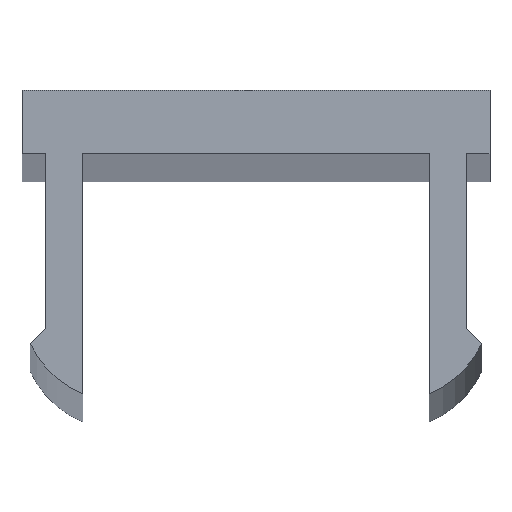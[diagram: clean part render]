
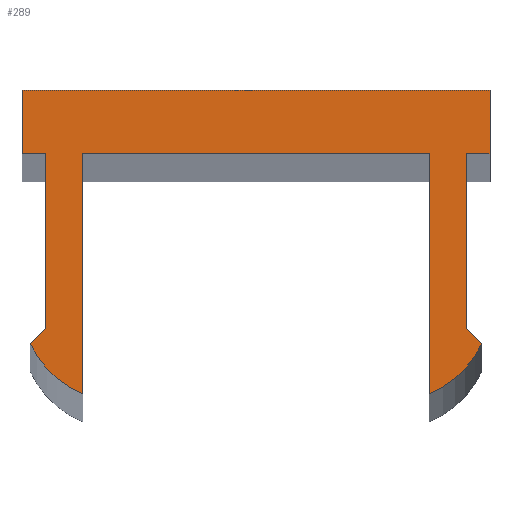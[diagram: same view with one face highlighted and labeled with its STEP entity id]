
A CAD part, top view. The second image highlights one B-rep face of the part: STEP entity #289.
In plain terms, the highlighted planar face has unit normal (0, 0, 1).
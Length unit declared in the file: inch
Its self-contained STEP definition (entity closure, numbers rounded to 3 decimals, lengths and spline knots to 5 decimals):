
#3 = VERTEX_POINT ( 'NONE', #374 ) ;
#8 = CARTESIAN_POINT ( 'NONE',  ( -0.65589, -0.71796, 39.372 ) ) ;
#9 = VERTEX_POINT ( 'NONE', #157 ) ;
#16 = DIRECTION ( 'NONE',  ( 0., 0., -1. ) ) ;
#22 = ORIENTED_EDGE ( 'NONE', *, *, #493, .T. ) ;
#25 = LINE ( 'NONE', #306, #447 ) ;
#26 = DIRECTION ( 'NONE',  ( 0., 1., 0. ) ) ;
#29 = CARTESIAN_POINT ( 'NONE',  ( -1.025, -0.85, 39.372 ) ) ;
#35 = VECTOR ( 'NONE', #424, 39.37008 ) ;
#37 = AXIS2_PLACEMENT_3D ( 'NONE', #8, #539, #259 ) ;
#43 = FACE_OUTER_BOUND ( 'NONE', #205, .T. ) ;
#50 = DIRECTION ( 'NONE',  ( 0., -1., 0. ) ) ;
#62 = CARTESIAN_POINT ( 'NONE',  ( 1.025, 0., 39.372 ) ) ;
#67 = DIRECTION ( 'NONE',  ( -1., 0., 0. ) ) ;
#74 = CARTESIAN_POINT ( 'NONE',  ( 1.14, 0.31, 39.372 ) ) ;
#78 = VERTEX_POINT ( 'NONE', #333 ) ;
#79 = VECTOR ( 'NONE', #179, 39.37008 ) ;
#82 = VECTOR ( 'NONE', #521, 39.37008 ) ;
#84 = EDGE_CURVE ( 'NONE', #247, #3, #341, .T. ) ;
#89 = VERTEX_POINT ( 'NONE', #74 ) ;
#90 = LINE ( 'NONE', #496, #79 ) ;
#91 = ORIENTED_EDGE ( 'NONE', *, *, #93, .T. ) ;
#93 = EDGE_CURVE ( 'NONE', #568, #432, #271, .T. ) ;
#95 = ORIENTED_EDGE ( 'NONE', *, *, #403, .T. ) ;
#101 = VECTOR ( 'NONE', #107, 39.37008 ) ;
#104 = CARTESIAN_POINT ( 'NONE',  ( 0.65589, -0.71796, 39.372 ) ) ;
#107 = DIRECTION ( 'NONE',  ( -0.707, -0.707, 0. ) ) ;
#113 = CARTESIAN_POINT ( 'NONE',  ( 0.65589, -0.71796, 39.372 ) ) ;
#120 = VECTOR ( 'NONE', #191, 39.37008 ) ;
#123 = ORIENTED_EDGE ( 'NONE', *, *, #422, .T. ) ;
#125 = EDGE_CURVE ( 'NONE', #78, #89, #406, .T. ) ;
#127 = ORIENTED_EDGE ( 'NONE', *, *, #449, .T. ) ;
#131 = VERTEX_POINT ( 'NONE', #423 ) ;
#133 = LINE ( 'NONE', #525, #368 ) ;
#134 = CARTESIAN_POINT ( 'NONE',  ( 0.845, 0., 39.372 ) ) ;
#137 = VERTEX_POINT ( 'NONE', #159 ) ;
#141 = EDGE_CURVE ( 'NONE', #9, #78, #519, .T. ) ;
#145 = ORIENTED_EDGE ( 'NONE', *, *, #252, .T. ) ;
#148 = ORIENTED_EDGE ( 'NONE', *, *, #235, .T. ) ;
#152 = DIRECTION ( 'NONE',  ( -1., 0., 0. ) ) ;
#157 = CARTESIAN_POINT ( 'NONE',  ( 1.025, 0., 39.372 ) ) ;
#159 = CARTESIAN_POINT ( 'NONE',  ( -1.025, 0., 39.372 ) ) ;
#165 = VERTEX_POINT ( 'NONE', #29 ) ;
#166 = VECTOR ( 'NONE', #26, 39.37008 ) ;
#173 = VECTOR ( 'NONE', #239, 39.37008 ) ;
#176 = AXIS2_PLACEMENT_3D ( 'NONE', #113, #371, #67 ) ;
#179 = DIRECTION ( 'NONE',  ( 0., -1., 0. ) ) ;
#183 = ORIENTED_EDGE ( 'NONE', *, *, #141, .T. ) ;
#188 = PLANE ( 'NONE',  #488 ) ;
#191 = DIRECTION ( 'NONE',  ( 0., 1., 0. ) ) ;
#192 = CARTESIAN_POINT ( 'NONE',  ( 1.1, -0.925, 39.372 ) ) ;
#200 = CARTESIAN_POINT ( 'NONE',  ( 0.845, 0., 39.372 ) ) ;
#205 = EDGE_LOOP ( 'NONE', ( #183, #314, #148, #123, #127, #535, #206, #95, #22, #91, #522, #537, #273, #145 ) ) ;
#206 = ORIENTED_EDGE ( 'NONE', *, *, #529, .T. ) ;
#209 = VERTEX_POINT ( 'NONE', #324 ) ;
#214 = VERTEX_POINT ( 'NONE', #233 ) ;
#215 = CIRCLE ( 'NONE', #37, 0.49 ) ;
#219 = VERTEX_POINT ( 'NONE', #555 ) ;
#233 = CARTESIAN_POINT ( 'NONE',  ( -1.14, 0., 39.372 ) ) ;
#235 = EDGE_CURVE ( 'NONE', #89, #209, #367, .T. ) ;
#239 = DIRECTION ( 'NONE',  ( -0.707, 0.707, 0. ) ) ;
#246 = DIRECTION ( 'NONE',  ( 1., 0., 0. ) ) ;
#247 = VERTEX_POINT ( 'NONE', #192 ) ;
#252 = EDGE_CURVE ( 'NONE', #3, #9, #566, .T. ) ;
#254 = VECTOR ( 'NONE', #152, 39.37008 ) ;
#258 = EDGE_CURVE ( 'NONE', #432, #219, #291, .T. ) ;
#259 = DIRECTION ( 'NONE',  ( 1., 0., 0. ) ) ;
#267 = DIRECTION ( 'NONE',  ( -1., 0., 0. ) ) ;
#271 = LINE ( 'NONE', #200, #35 ) ;
#272 = LINE ( 'NONE', #418, #166 ) ;
#273 = ORIENTED_EDGE ( 'NONE', *, *, #84, .T. ) ;
#289 = ADVANCED_FACE ( 'NONE', ( #43 ), #188, .F. ) ;
#291 = LINE ( 'NONE', #511, #446 ) ;
#301 = VECTOR ( 'NONE', #475, 39.37008 ) ;
#306 = CARTESIAN_POINT ( 'NONE',  ( -1.14, 0.31, 39.372 ) ) ;
#314 = ORIENTED_EDGE ( 'NONE', *, *, #125, .T. ) ;
#315 = LINE ( 'NONE', #554, #101 ) ;
#323 = CARTESIAN_POINT ( 'NONE',  ( -1.1, -0.925, 39.372 ) ) ;
#324 = CARTESIAN_POINT ( 'NONE',  ( -1.14, 0.31, 39.372 ) ) ;
#333 = CARTESIAN_POINT ( 'NONE',  ( 1.14, 0., 39.372 ) ) ;
#341 = LINE ( 'NONE', #382, #173 ) ;
#367 = LINE ( 'NONE', #515, #254 ) ;
#368 = VECTOR ( 'NONE', #246, 39.37008 ) ;
#371 = DIRECTION ( 'NONE',  ( 0., 0., 1. ) ) ;
#374 = CARTESIAN_POINT ( 'NONE',  ( 1.025, -0.85, 39.372 ) ) ;
#381 = EDGE_CURVE ( 'NONE', #137, #165, #90, .T. ) ;
#382 = CARTESIAN_POINT ( 'NONE',  ( 1.025, -0.85, 39.372 ) ) ;
#403 = EDGE_CURVE ( 'NONE', #528, #131, #215, .T. ) ;
#406 = LINE ( 'NONE', #561, #301 ) ;
#418 = CARTESIAN_POINT ( 'NONE',  ( -0.845, 0., 39.372 ) ) ;
#422 = EDGE_CURVE ( 'NONE', #209, #214, #25, .T. ) ;
#423 = CARTESIAN_POINT ( 'NONE',  ( -0.845, -1.17, 39.372 ) ) ;
#424 = DIRECTION ( 'NONE',  ( 1., 0., 0. ) ) ;
#432 = VERTEX_POINT ( 'NONE', #134 ) ;
#446 = VECTOR ( 'NONE', #552, 39.37008 ) ;
#447 = VECTOR ( 'NONE', #50, 39.37008 ) ;
#449 = EDGE_CURVE ( 'NONE', #214, #137, #133, .T. ) ;
#457 = CARTESIAN_POINT ( 'NONE',  ( -0.845, 0., 39.372 ) ) ;
#470 = CARTESIAN_POINT ( 'NONE',  ( 1.14, 0., 39.372 ) ) ;
#475 = DIRECTION ( 'NONE',  ( 0., 1., 0. ) ) ;
#483 = EDGE_CURVE ( 'NONE', #219, #247, #490, .T. ) ;
#488 = AXIS2_PLACEMENT_3D ( 'NONE', #104, #16, #267 ) ;
#490 = CIRCLE ( 'NONE', #176, 0.49 ) ;
#493 = EDGE_CURVE ( 'NONE', #131, #568, #272, .T. ) ;
#496 = CARTESIAN_POINT ( 'NONE',  ( -1.025, 0., 39.372 ) ) ;
#511 = CARTESIAN_POINT ( 'NONE',  ( 0.845, 0., 39.372 ) ) ;
#515 = CARTESIAN_POINT ( 'NONE',  ( 1.14, 0.31, 39.372 ) ) ;
#519 = LINE ( 'NONE', #470, #82 ) ;
#521 = DIRECTION ( 'NONE',  ( 1., 0., 0. ) ) ;
#522 = ORIENTED_EDGE ( 'NONE', *, *, #258, .T. ) ;
#525 = CARTESIAN_POINT ( 'NONE',  ( -1.14, 0., 39.372 ) ) ;
#528 = VERTEX_POINT ( 'NONE', #323 ) ;
#529 = EDGE_CURVE ( 'NONE', #165, #528, #315, .T. ) ;
#535 = ORIENTED_EDGE ( 'NONE', *, *, #381, .T. ) ;
#537 = ORIENTED_EDGE ( 'NONE', *, *, #483, .T. ) ;
#539 = DIRECTION ( 'NONE',  ( 0., 0., 1. ) ) ;
#552 = DIRECTION ( 'NONE',  ( 0., -1., 0. ) ) ;
#554 = CARTESIAN_POINT ( 'NONE',  ( -1.025, -0.85, 39.372 ) ) ;
#555 = CARTESIAN_POINT ( 'NONE',  ( 0.845, -1.17, 39.372 ) ) ;
#561 = CARTESIAN_POINT ( 'NONE',  ( 1.14, 0.31, 39.372 ) ) ;
#566 = LINE ( 'NONE', #62, #120 ) ;
#568 = VERTEX_POINT ( 'NONE', #457 ) ;
